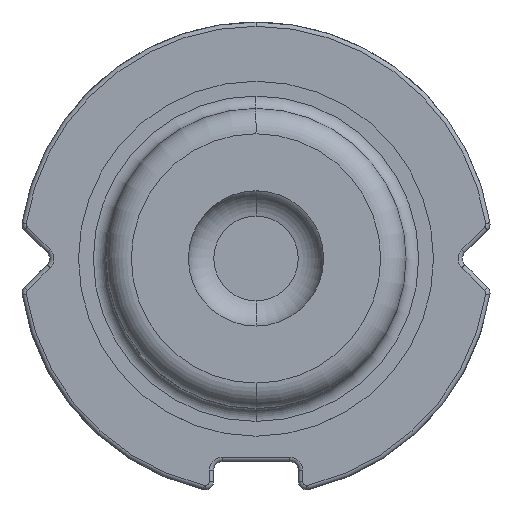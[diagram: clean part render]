
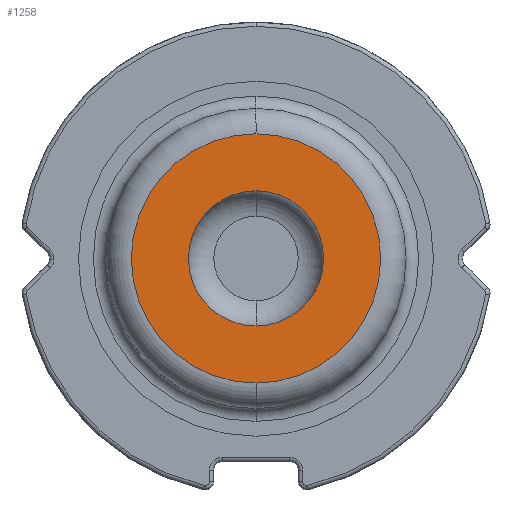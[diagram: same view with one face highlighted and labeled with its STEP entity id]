
A CAD part, top view. The second image highlights one B-rep face of the part: STEP entity #1258.
In plain terms, the highlighted planar face has unit normal (0, 0, 1).
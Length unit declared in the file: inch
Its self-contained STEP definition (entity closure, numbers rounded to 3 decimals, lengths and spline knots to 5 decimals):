
#20 = VERTEX_POINT ( 'NONE', #450 ) ;
#55 = EDGE_LOOP ( 'NONE', ( #2074, #467 ) ) ;
#69 = AXIS2_PLACEMENT_3D ( 'NONE', #470, #1507, #171 ) ;
#136 = EDGE_LOOP ( 'NONE', ( #1922, #2159 ) ) ;
#171 = DIRECTION ( 'NONE',  ( 0., -1., 0. ) ) ;
#189 = AXIS2_PLACEMENT_3D ( 'NONE', #2235, #2247, #2099 ) ;
#393 = VERTEX_POINT ( 'NONE', #457 ) ;
#421 = CARTESIAN_POINT ( 'NONE',  ( 0., 0.0315, 0.1378 ) ) ;
#450 = CARTESIAN_POINT ( 'NONE',  ( 0., -0.0315, 0.1378 ) ) ;
#457 = CARTESIAN_POINT ( 'NONE',  ( 0., 0.05807, 0.1378 ) ) ;
#467 = ORIENTED_EDGE ( 'NONE', *, *, #915, .T. ) ;
#470 = CARTESIAN_POINT ( 'NONE',  ( 0., 0., 0.1378 ) ) ;
#510 = PLANE ( 'NONE',  #189 ) ;
#637 = DIRECTION ( 'NONE',  ( 0., 0., -1. ) ) ;
#742 = DIRECTION ( 'NONE',  ( 0., 0., -1. ) ) ;
#778 = CARTESIAN_POINT ( 'NONE',  ( 0., -0.05807, 0.1378 ) ) ;
#796 = CIRCLE ( 'NONE', #992, 0.0315 ) ;
#915 = EDGE_CURVE ( 'NONE', #1858, #20, #796, .T. ) ;
#992 = AXIS2_PLACEMENT_3D ( 'NONE', #2056, #637, #1347 ) ;
#1086 = CARTESIAN_POINT ( 'NONE',  ( 0., 0., 0.1378 ) ) ;
#1151 = DIRECTION ( 'NONE',  ( 0., -1., 0. ) ) ;
#1258 = ADVANCED_FACE ( 'NONE', ( #2269, #1703 ), #510, .T. ) ;
#1259 = AXIS2_PLACEMENT_3D ( 'NONE', #1280, #2028, #1151 ) ;
#1280 = CARTESIAN_POINT ( 'NONE',  ( 0., 0., 0.1378 ) ) ;
#1347 = DIRECTION ( 'NONE',  ( 0., -1., 0. ) ) ;
#1368 = AXIS2_PLACEMENT_3D ( 'NONE', #1086, #742, #1776 ) ;
#1423 = EDGE_CURVE ( 'NONE', #1590, #393, #1511, .T. ) ;
#1507 = DIRECTION ( 'NONE',  ( 0., 0., -1. ) ) ;
#1511 = CIRCLE ( 'NONE', #1368, 0.05807 ) ;
#1590 = VERTEX_POINT ( 'NONE', #778 ) ;
#1643 = EDGE_CURVE ( 'NONE', #20, #1858, #1770, .T. ) ;
#1703 = FACE_OUTER_BOUND ( 'NONE', #136, .T. ) ;
#1756 = EDGE_CURVE ( 'NONE', #393, #1590, #1992, .T. ) ;
#1770 = CIRCLE ( 'NONE', #1259, 0.0315 ) ;
#1776 = DIRECTION ( 'NONE',  ( 0., -1., 0. ) ) ;
#1858 = VERTEX_POINT ( 'NONE', #421 ) ;
#1922 = ORIENTED_EDGE ( 'NONE', *, *, #1423, .F. ) ;
#1992 = CIRCLE ( 'NONE', #69, 0.05807 ) ;
#2028 = DIRECTION ( 'NONE',  ( 0., 0., -1. ) ) ;
#2056 = CARTESIAN_POINT ( 'NONE',  ( 0., 0., 0.1378 ) ) ;
#2074 = ORIENTED_EDGE ( 'NONE', *, *, #1643, .T. ) ;
#2099 = DIRECTION ( 'NONE',  ( 0., -1., 0. ) ) ;
#2159 = ORIENTED_EDGE ( 'NONE', *, *, #1756, .F. ) ;
#2235 = CARTESIAN_POINT ( 'NONE',  ( 0., -0.05807, 0.1378 ) ) ;
#2247 = DIRECTION ( 'NONE',  ( 0., 0., 1. ) ) ;
#2269 = FACE_BOUND ( 'NONE', #55, .T. ) ;
